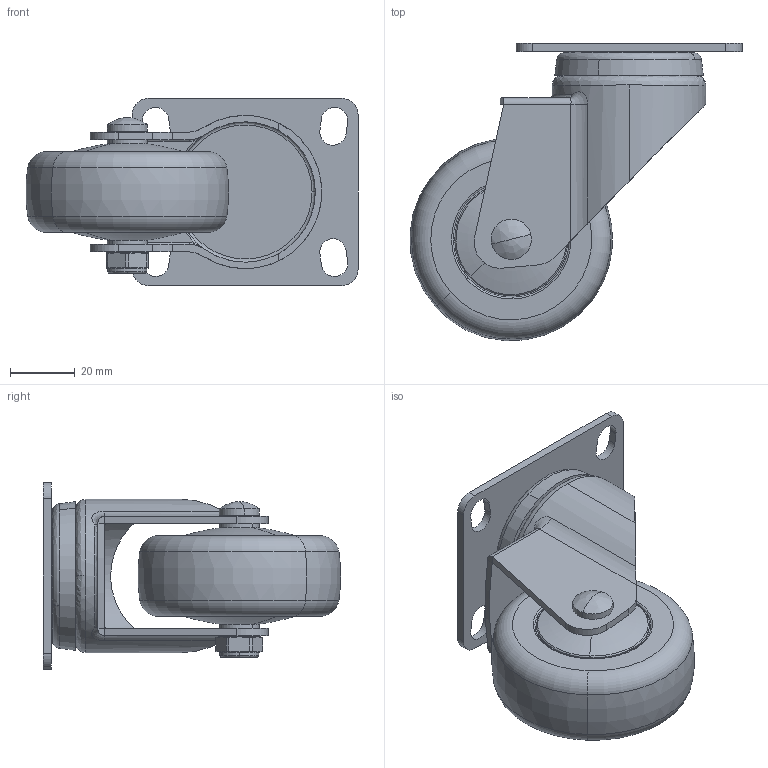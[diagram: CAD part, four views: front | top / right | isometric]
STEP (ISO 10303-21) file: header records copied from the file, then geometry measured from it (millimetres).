
FILE_DESCRIPTION (( 'STEP AP214' ), '1' );
FILE_NAME ('372125-3725-67 す階勀砃.STEP', '2019-12-14T00:06:02', ( 'Owner' ), ( 'Organization' ), 'SwSTEP 2.0', 'SolidWorks 2014', '' );
FILE_SCHEMA (( 'AUTOMOTIVE_DESIGN' ));
Length unit declared in the file: millimetre
Products named in the file (9): 3725-907; 360-03上刚碗 （37系列使用模型）; 372125-3725-67 す階勀砃; 360-01 侐源 ; 3725-11; 2.5渡勀砃; 价陬; 300-34; 350-33a
Assembly tree (8 placements, depth 4):
  372125-3725-67 す階勀砃
    2.5渡勀砃
      3725-11
      360-03上刚碗 （37系列使用模型）
      价陬
        300-34
        350-33a
    360-01 侐源 
    3725-907
Bounding box: 102.88 x 92.08 x 58 mm (x, y, z)
Volume: 112802.6 mm3; surface area: 42699.1 mm2
Topology: 6 solids, 6 shells, 250 faces, 642 edges, 412 vertices
Faces by surface type: cylinder 90, plane 59, bspline 52, cone 25, torus 24
Entity records: 86616 total; most frequent: CARTESIAN_POINT 80521, ORIENTED_EDGE 1278, DIRECTION 1142, EDGE_CURVE 639, AXIS2_PLACEMENT_3D 469, VERTEX_POINT 412, EDGE_LOOP 279, CIRCLE 258
